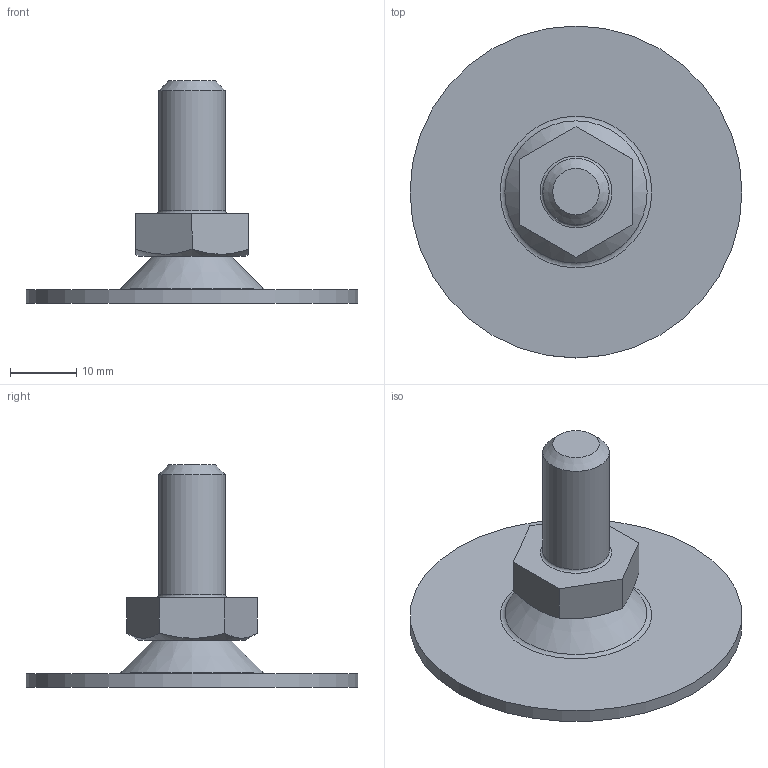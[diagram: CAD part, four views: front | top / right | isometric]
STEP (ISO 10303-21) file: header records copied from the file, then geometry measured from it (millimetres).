
FILE_DESCRIPTION(('STEP AP203'), '1');
FILE_NAME('A00050.1051016', '', ('UNSPECIFIED'), ('UNSPECIFIED'), 'C3D Converter', 'C3D Toolkit', '');
FILE_SCHEMA(('CONFIG_CONTROL_DESIGN'));
Length unit declared in the file: millimetre
Products named in the file (4): A00050.1051020; A00050.1050
Assembly tree (3 placements, depth 2):
  A00050.1051020
    A00050.1050
    (unnamed)
    (unnamed)
Bounding box: 50 x 50 x 33.52 mm (x, y, z)
Volume: 7247 mm3; surface area: 6333.6 mm2
Topology: 3 solids, 3 shells, 58 faces, 130 edges, 82 vertices
Faces by surface type: plane 28, torus 8, bspline 8, cone 7, cylinder 6, sphere 1
Full cylindrical faces by diameter (mm): 3.3 x1, 4 x1, 4.5 x1, 8 x1, 10 x1, 50 x1
Entity records: 2171 total; most frequent: CARTESIAN_POINT 784, DIRECTION 242, ORIENTED_EDGE 214, EDGE_CURVE 107, AXIS2_PLACEMENT_3D 95, EDGE_LOOP 86, VERTEX_POINT 81, ADVANCED_FACE 58
